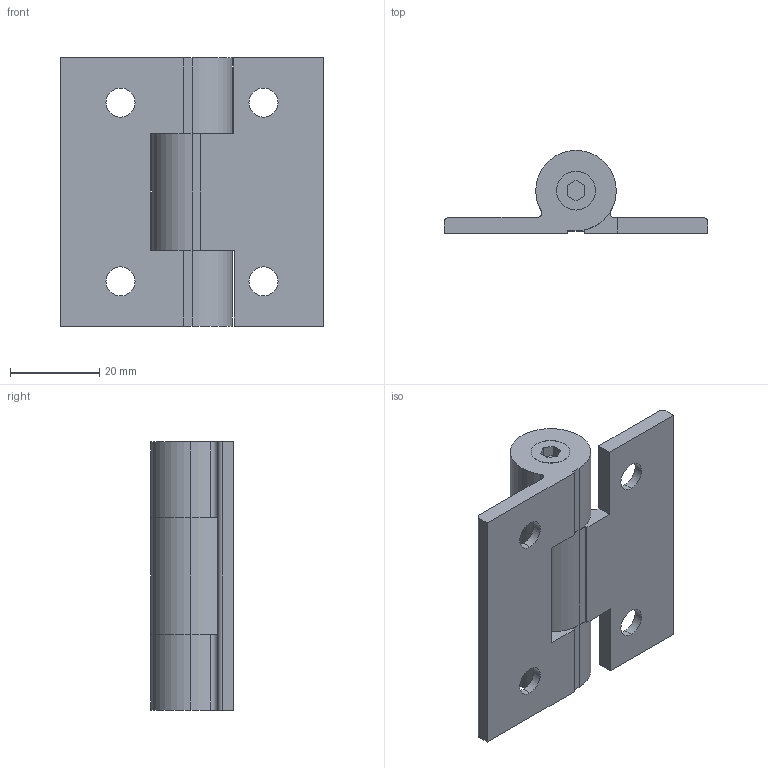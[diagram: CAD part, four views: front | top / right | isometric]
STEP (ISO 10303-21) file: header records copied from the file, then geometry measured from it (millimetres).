
FILE_DESCRIPTION (( 'STEP AP203' ), '1' );
FILE_NAME ('XG11-083.STEP', '2025-04-18T09:29:04', ( '微软用户' ), ( '微软中国' ), 'SwSTEP 2.0', 'SolidWorks 2024', '' );
FILE_SCHEMA (( 'CONFIG_CONTROL_DESIGN' ));
Length unit declared in the file: millimetre
Products named in the file (1): XG11-083
Bounding box: 59 x 18.5 x 60 mm (x, y, z)
Volume: 22988.9 mm3; surface area: 12013.4 mm2
Topology: 2 solids, 2 shells, 72 faces, 186 edges, 124 vertices
Faces by surface type: cylinder 37, plane 35
Entity records: 2323 total; most frequent: DIRECTION 406, CARTESIAN_POINT 383, ORIENTED_EDGE 372, EDGE_CURVE 186, AXIS2_PLACEMENT_3D 147, VERTEX_POINT 124, VECTOR 112, LINE 112
